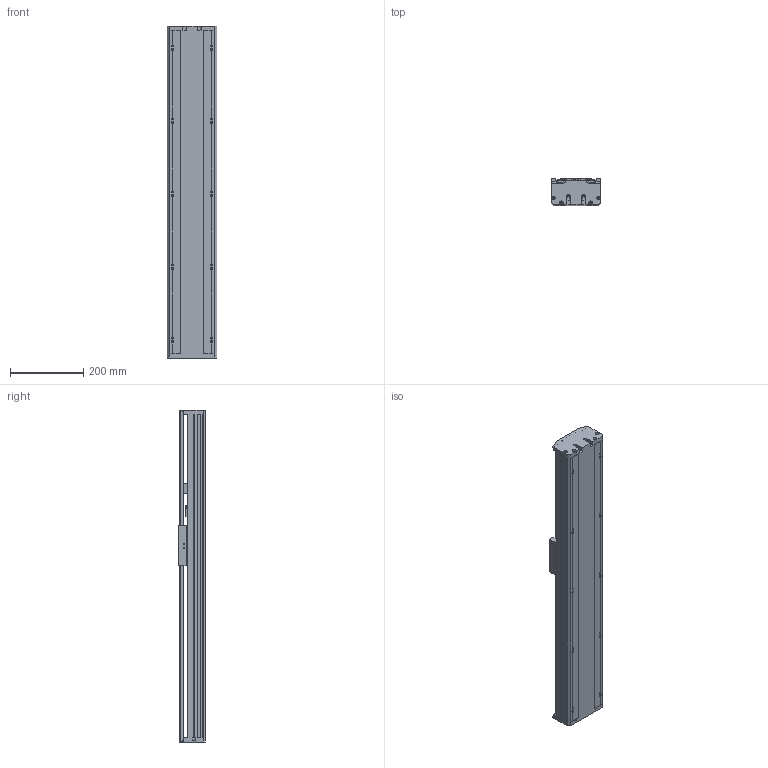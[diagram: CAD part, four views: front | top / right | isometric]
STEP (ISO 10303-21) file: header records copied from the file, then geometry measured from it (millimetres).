
FILE_DESCRIPTION(/* description */ (''),/* implementation_level */ '2;1');
FILE_NAME(/* name */ 'TKA136-FI-450_asm1.stp',/* time_stamp */ '2016-05-07T10:23:02+08:00',/* author */ (''),/* organization */ (''),/* preprocessor_version */ 'ST-DEVELOPER v15',/* originating_system */ 'SIEMENS PLM Software NX 8.5',/* authorisation */ '');
FILE_SCHEMA (('AUTOMOTIVE_DESIGN { 1 0 10303 214 3 1 1 1 }'));
Length unit declared in the file: millimetre
Products named in the file (3): 100-02; 100-01; TKA136-FI-450_asm1
Assembly tree (2 placements, depth 2):
  TKA136-FI-450_asm1
    100-01
    100-02
Bounding box: 136 x 75 x 909 mm (x, y, z)
Volume: 2916881.4 mm3; surface area: 1083012.2 mm2
Topology: 2 solids, 12 shells, 937 faces, 2672 edges, 1751 vertices
Faces by surface type: cylinder 453, plane 434, cone 50
Full cylindrical faces by diameter (mm): 2.5 x4, 3.3 x8, 4.2 x8, 4.5 x20, 5 x8, 5.5 x14, 8 x20, 10 x9, 10.5 x4, 11.6 x1, 12 x8, 15 x3, 16 x5, 24 x3, 26 x1, 28 x1, 46 x1
Entity records: 32363 total; most frequent: CARTESIAN_POINT 8345, DIRECTION 4928, ORIENTED_EDGE 4900, EDGE_CURVE 2450, AXIS2_PLACEMENT_3D 1828, VERTEX_POINT 1703, LINE 1272, VECTOR 1272
